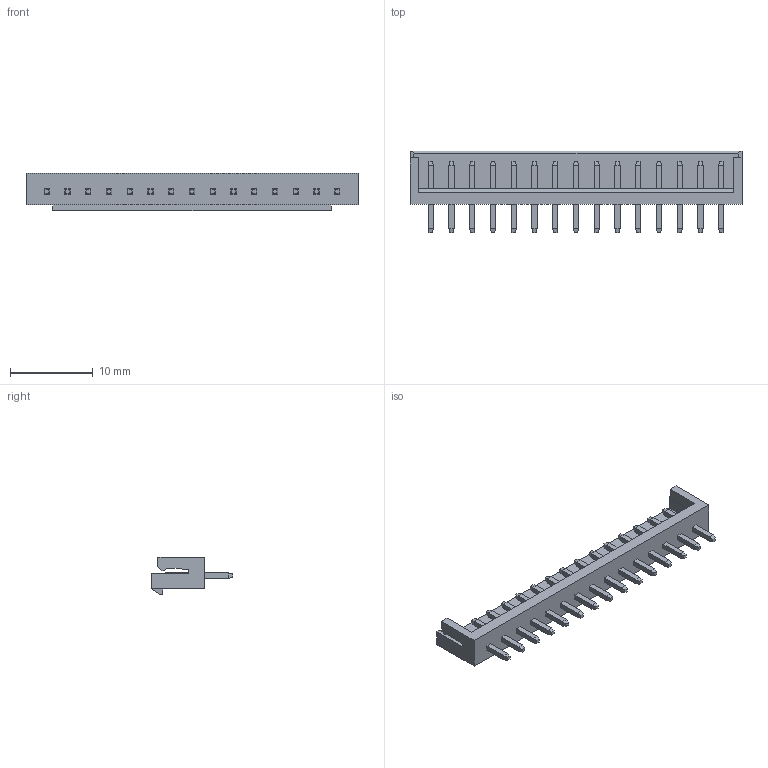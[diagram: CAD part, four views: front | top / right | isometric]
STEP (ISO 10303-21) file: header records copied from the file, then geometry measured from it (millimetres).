
FILE_DESCRIPTION (( 'STEP AP214' ), '1' );
FILE_NAME ('HC-EHB-15A-05 (2.50 等齬 湍諶眻渀-HCTL).STEP', '2025-01-08T09:50:40', ( '' ), ( '' ), 'SwSTEP 2.0', 'SolidWorks 2022', '' );
FILE_SCHEMA (( 'AUTOMOTIVE_DESIGN' ));
Length unit declared in the file: millimetre
Products named in the file (1): HC-EHB-15A-05 (2.50 等齬 湍諶眻渀-HCTL)
Bounding box: 40 x 9.8 x 4.5 mm (x, y, z)
Volume: 425.6 mm3; surface area: 1161 mm2
Topology: 1 solids, 1 shells, 314 faces, 720 edges, 438 vertices
Faces by surface type: plane 314
Entity records: 11500 total; most frequent: CARTESIAN_POINT 1473, ORIENTED_EDGE 1440, DIRECTION 1350, LINE 720, EDGE_CURVE 720, VECTOR 720, VERTEX_POINT 438, EDGE_LOOP 344
